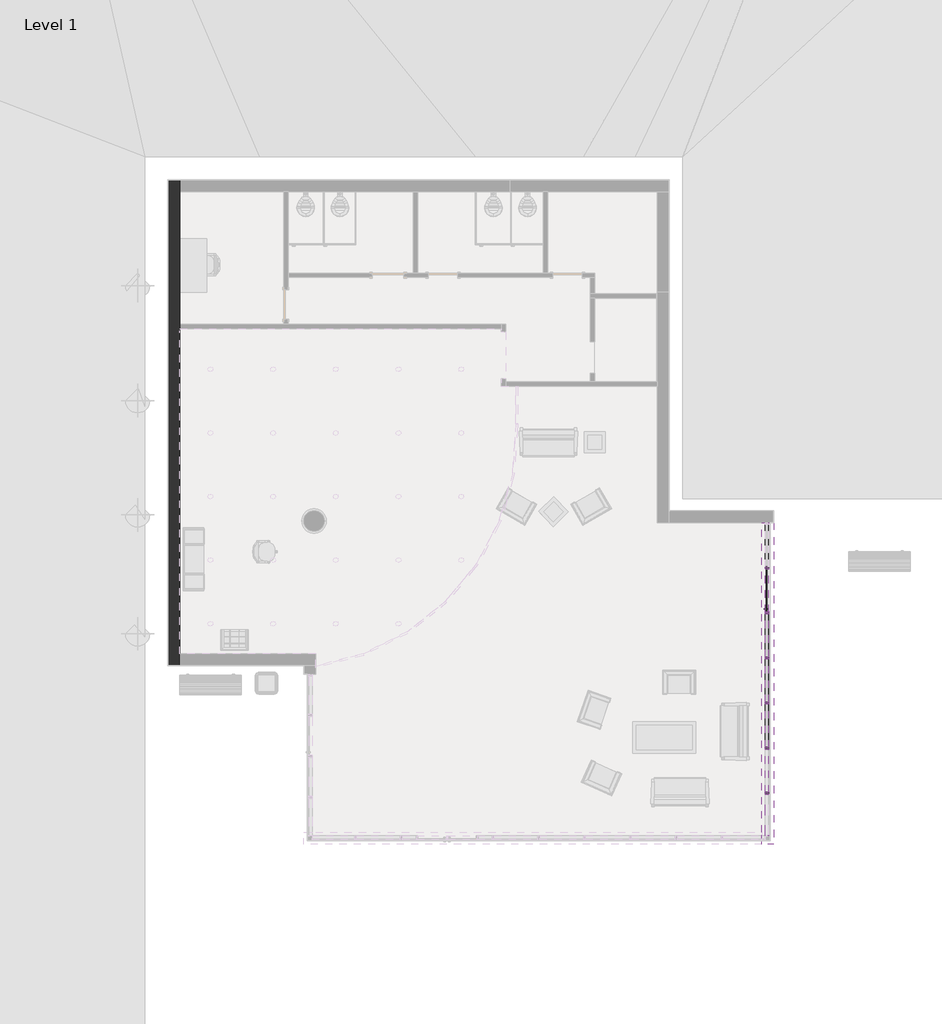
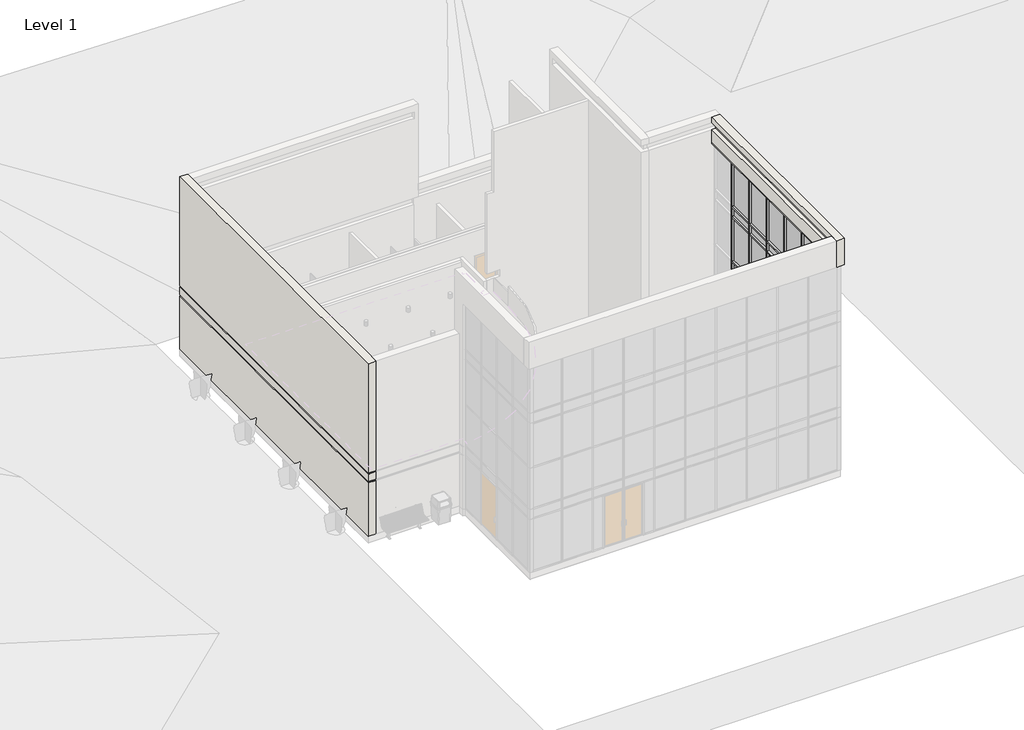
# One storey, part 4 of 6: 75 members, 28 plates, 2 walls, 1 door.
"""IFC4 building model written with IfcOpenShell, lengths in millimetres."""

from ifc_helpers import new_model, si_unit, origin, place, context, project, spatial, faceted_brep, transform, mapped, element, save
from components import curtain_wall_sgl_glass_curtain_wall_sgl_glass_6e947e4e, rectangular_mullion_50_x_150mm_a98d9a75, rectangular_mullion_50_x_150mm_e5e1dcca, rectangular_mullion_50_x_150mm_47c0eb49, rectangular_mullion_50_x_150mm_2677f012, rectangular_mullion_50_x_150mm_55a91b40, rectangular_mullion_50_x_150mm_fb94c6f7, rectangular_mullion_50_x_150mm_5de8f13b, rectangular_mullion_50_x_150mm_bd4d183d, rectangular_mullion_50_x_150mm_dd91e440, system_panel_glazed_1235180c, system_panel_glazed_c553e61d, system_panel_glazed_59e3bf6d, system_panel_glazed_48263e64, system_panel_glazed_91421042

model = new_model("IFC4")

# Units and contexts
model_context = context("Model", 3, world=origin())
ifc_project = project(units=[si_unit("LENGTHUNIT", "METRE", prefix="MILLI")], contexts=[model_context])

# Site, building, storey
site = spatial("IfcSite", under=ifc_project)
building = spatial("IfcBuilding", under=site)
storey = spatial("IfcBuildingStorey", under=building, Name="Level 1", Elevation=45720.0)

# Door
placement = place(None, origin())
curtain_wall_sgl_glass_curtain_wall_sgl_glass_shape = curtain_wall_sgl_glass_curtain_wall_sgl_glass_6e947e4e(model_context)
element("IfcDoor", 1, ObjectType="Curtain Wall Sgl Glass : Curtain Wall Sgl Glass", at=placement, inside=storey, context=model_context, shape_type="MappedRepresentation", body=[
    mapped(curtain_wall_sgl_glass_curtain_wall_sgl_glass_shape, transform((3237.9561928, -873.7818307, 45720.0), x_axis=(0.0, 1.0, 0.0), y_axis=(-1.0, 0.0, 0.0), z_axis=(0.0, 0.0, 1.0))),
])

# Members
rectangular_mullion_50_x_150mm_shape = rectangular_mullion_50_x_150mm_a98d9a75(model_context)
element("IfcMember", 2, ObjectType="Rectangular Mullion : 50 x 150mm", at=placement, inside=storey, context=model_context, shape_type="MappedRepresentation", body=[
    mapped(rectangular_mullion_50_x_150mm_shape, transform((3237.9561928, -6793.7818307, 45720.0), x_axis=(0.0, 1.0, 0.0), y_axis=(1.0, 0.0, 0.0), z_axis=(0.0, 0.0, -1.0))),
])
element("IfcMember", 3, ObjectType="Rectangular Mullion : 50 x 150mm", at=placement, inside=storey, context=model_context, shape_type="MappedRepresentation", body=[
    mapped(rectangular_mullion_50_x_150mm_shape, transform((3237.9561928, -5478.2262751, 45720.0), x_axis=(0.0, 1.0, 0.0), y_axis=(1.0, 0.0, 0.0), z_axis=(0.0, 0.0, -1.0))),
])
element("IfcMember", 4, ObjectType="Rectangular Mullion : 50 x 150mm", at=placement, inside=storey, context=model_context, shape_type="MappedRepresentation", body=[
    mapped(rectangular_mullion_50_x_150mm_shape, transform((3237.9561928, -4162.6707196, 45720.0), x_axis=(0.0, 1.0, 0.0), y_axis=(1.0, 0.0, 0.0), z_axis=(0.0, 0.0, -1.0))),
])
element("IfcMember", 5, ObjectType="Rectangular Mullion : 50 x 150mm", at=placement, inside=storey, context=model_context, shape_type="MappedRepresentation", body=[
    mapped(rectangular_mullion_50_x_150mm_shape, transform((3237.9561928, -2847.115164, 45720.0), x_axis=(0.0, 1.0, 0.0), y_axis=(1.0, 0.0, 0.0), z_axis=(0.0, 0.0, -1.0))),
])
element("IfcMember", 6, ObjectType="Rectangular Mullion : 50 x 150mm", at=placement, inside=storey, context=model_context, shape_type="MappedRepresentation", body=[
    mapped(rectangular_mullion_50_x_150mm_shape, transform((3237.9561928, -1531.5596084, 45720.0), x_axis=(0.0, 1.0, 0.0), y_axis=(1.0, 0.0, 0.0), z_axis=(0.0, 0.0, -1.0))),
])
element("IfcMember", 7, ObjectType="Rectangular Mullion : 50 x 150mm", at=placement, inside=storey, context=model_context, shape_type="MappedRepresentation", body=[
    mapped(rectangular_mullion_50_x_150mm_shape, transform((3237.9561928, -216.0040529, 45720.0), x_axis=(0.0, 1.0, 0.0), y_axis=(1.0, 0.0, 0.0), z_axis=(0.0, 0.0, -1.0))),
])
rectangular_mullion_50_x_150mm_2_shape = rectangular_mullion_50_x_150mm_e5e1dcca(model_context)
element("IfcMember", 8, ObjectType="Rectangular Mullion : 50 x 150mm", at=placement, inside=storey, context=model_context, shape_type="MappedRepresentation", body=[
    mapped(rectangular_mullion_50_x_150mm_2_shape, transform((3237.9561928, -6793.7818307, 48158.4), x_axis=(0.0, 1.0, 0.0), y_axis=(1.0, 0.0, 0.0), z_axis=(0.0, 0.0, -1.0))),
])
element("IfcMember", 9, ObjectType="Rectangular Mullion : 50 x 150mm", at=placement, inside=storey, context=model_context, shape_type="MappedRepresentation", body=[
    mapped(rectangular_mullion_50_x_150mm_2_shape, transform((3237.9561928, -5478.2262751, 48158.4), x_axis=(0.0, 1.0, 0.0), y_axis=(1.0, 0.0, 0.0), z_axis=(0.0, 0.0, -1.0))),
])
element("IfcMember", 10, ObjectType="Rectangular Mullion : 50 x 150mm", at=placement, inside=storey, context=model_context, shape_type="MappedRepresentation", body=[
    mapped(rectangular_mullion_50_x_150mm_2_shape, transform((3237.9561928, -4162.6707196, 48158.4), x_axis=(0.0, 1.0, 0.0), y_axis=(1.0, 0.0, 0.0), z_axis=(0.0, 0.0, -1.0))),
])
element("IfcMember", 11, ObjectType="Rectangular Mullion : 50 x 150mm", at=placement, inside=storey, context=model_context, shape_type="MappedRepresentation", body=[
    mapped(rectangular_mullion_50_x_150mm_2_shape, transform((3237.9561928, -2847.115164, 48158.4), x_axis=(0.0, 1.0, 0.0), y_axis=(1.0, 0.0, 0.0), z_axis=(0.0, 0.0, -1.0))),
])
element("IfcMember", 12, ObjectType="Rectangular Mullion : 50 x 150mm", at=placement, inside=storey, context=model_context, shape_type="MappedRepresentation", body=[
    mapped(rectangular_mullion_50_x_150mm_2_shape, transform((3237.9561928, -1531.5596084, 48158.4), x_axis=(0.0, 1.0, 0.0), y_axis=(1.0, 0.0, 0.0), z_axis=(0.0, 0.0, -1.0))),
])
element("IfcMember", 13, ObjectType="Rectangular Mullion : 50 x 150mm", at=placement, inside=storey, context=model_context, shape_type="MappedRepresentation", body=[
    mapped(rectangular_mullion_50_x_150mm_2_shape, transform((3237.9561928, -216.0040529, 48158.4), x_axis=(0.0, 1.0, 0.0), y_axis=(1.0, 0.0, 0.0), z_axis=(0.0, 0.0, -1.0))),
])
element("IfcMember", 14, ObjectType="Rectangular Mullion : 50 x 150mm", at=placement, inside=storey, context=model_context, shape_type="MappedRepresentation", body=[
    mapped(rectangular_mullion_50_x_150mm_2_shape, transform((3237.9561928, -6793.7818307, 52578.0), x_axis=(0.0, 1.0, 0.0), y_axis=(1.0, 0.0, 0.0), z_axis=(0.0, 0.0, -1.0))),
])
element("IfcMember", 15, ObjectType="Rectangular Mullion : 50 x 150mm", at=placement, inside=storey, context=model_context, shape_type="MappedRepresentation", body=[
    mapped(rectangular_mullion_50_x_150mm_2_shape, transform((3237.9561928, -5478.2262751, 52578.0), x_axis=(0.0, 1.0, 0.0), y_axis=(1.0, 0.0, 0.0), z_axis=(0.0, 0.0, -1.0))),
])
element("IfcMember", 16, ObjectType="Rectangular Mullion : 50 x 150mm", at=placement, inside=storey, context=model_context, shape_type="MappedRepresentation", body=[
    mapped(rectangular_mullion_50_x_150mm_2_shape, transform((3237.9561928, -4162.6707196, 52578.0), x_axis=(0.0, 1.0, 0.0), y_axis=(1.0, 0.0, 0.0), z_axis=(0.0, 0.0, -1.0))),
])
element("IfcMember", 17, ObjectType="Rectangular Mullion : 50 x 150mm", at=placement, inside=storey, context=model_context, shape_type="MappedRepresentation", body=[
    mapped(rectangular_mullion_50_x_150mm_2_shape, transform((3237.9561928, -2847.115164, 52578.0), x_axis=(0.0, 1.0, 0.0), y_axis=(1.0, 0.0, 0.0), z_axis=(0.0, 0.0, -1.0))),
])
element("IfcMember", 18, ObjectType="Rectangular Mullion : 50 x 150mm", at=placement, inside=storey, context=model_context, shape_type="MappedRepresentation", body=[
    mapped(rectangular_mullion_50_x_150mm_2_shape, transform((3237.9561928, -1531.5596084, 52578.0), x_axis=(0.0, 1.0, 0.0), y_axis=(1.0, 0.0, 0.0), z_axis=(0.0, 0.0, -1.0))),
])
element("IfcMember", 19, ObjectType="Rectangular Mullion : 50 x 150mm", at=placement, inside=storey, context=model_context, shape_type="MappedRepresentation", body=[
    mapped(rectangular_mullion_50_x_150mm_2_shape, transform((3237.9561928, -216.0040529, 52578.0), x_axis=(0.0, 1.0, 0.0), y_axis=(1.0, 0.0, 0.0), z_axis=(0.0, 0.0, -1.0))),
])
rectangular_mullion_50_x_150mm_3_shape = rectangular_mullion_50_x_150mm_47c0eb49(model_context)
element("IfcMember", 20, ObjectType="Rectangular Mullion : 50 x 150mm", at=placement, inside=storey, context=model_context, shape_type="MappedRepresentation", body=[
    mapped(rectangular_mullion_50_x_150mm_3_shape, transform((3237.9561928, -6793.7818307, 50520.0), x_axis=(0.0, 1.0, 0.0), y_axis=(1.0, 0.0, 0.0), z_axis=(0.0, 0.0, -1.0))),
])
element("IfcMember", 21, ObjectType="Rectangular Mullion : 50 x 150mm", at=placement, inside=storey, context=model_context, shape_type="MappedRepresentation", body=[
    mapped(rectangular_mullion_50_x_150mm_3_shape, transform((3237.9561928, -5478.2262751, 50520.0), x_axis=(0.0, 1.0, 0.0), y_axis=(1.0, 0.0, 0.0), z_axis=(0.0, 0.0, -1.0))),
])
element("IfcMember", 22, ObjectType="Rectangular Mullion : 50 x 150mm", at=placement, inside=storey, context=model_context, shape_type="MappedRepresentation", body=[
    mapped(rectangular_mullion_50_x_150mm_3_shape, transform((3237.9561928, -4162.6707196, 50520.0), x_axis=(0.0, 1.0, 0.0), y_axis=(1.0, 0.0, 0.0), z_axis=(0.0, 0.0, -1.0))),
])
element("IfcMember", 23, ObjectType="Rectangular Mullion : 50 x 150mm", at=placement, inside=storey, context=model_context, shape_type="MappedRepresentation", body=[
    mapped(rectangular_mullion_50_x_150mm_3_shape, transform((3237.9561928, -2847.115164, 50520.0), x_axis=(0.0, 1.0, 0.0), y_axis=(1.0, 0.0, 0.0), z_axis=(0.0, 0.0, -1.0))),
])
element("IfcMember", 24, ObjectType="Rectangular Mullion : 50 x 150mm", at=placement, inside=storey, context=model_context, shape_type="MappedRepresentation", body=[
    mapped(rectangular_mullion_50_x_150mm_3_shape, transform((3237.9561928, -1531.5596084, 50520.0), x_axis=(0.0, 1.0, 0.0), y_axis=(1.0, 0.0, 0.0), z_axis=(0.0, 0.0, -1.0))),
])
element("IfcMember", 25, ObjectType="Rectangular Mullion : 50 x 150mm", at=placement, inside=storey, context=model_context, shape_type="MappedRepresentation", body=[
    mapped(rectangular_mullion_50_x_150mm_3_shape, transform((3237.9561928, -216.0040529, 50520.0), x_axis=(0.0, 1.0, 0.0), y_axis=(1.0, 0.0, 0.0), z_axis=(0.0, 0.0, -1.0))),
])
rectangular_mullion_50_x_150mm_4_shape = rectangular_mullion_50_x_150mm_2677f012(model_context)
element("IfcMember", 26, ObjectType="Rectangular Mullion : 50 x 150mm", at=placement, inside=storey, context=model_context, shape_type="MappedRepresentation", body=[
    mapped(rectangular_mullion_50_x_150mm_4_shape, transform((3237.9561928, -6793.7818307, 53035.2), x_axis=(0.0, 1.0, 0.0), y_axis=(1.0, 0.0, 0.0), z_axis=(0.0, 0.0, -1.0))),
])
element("IfcMember", 27, ObjectType="Rectangular Mullion : 50 x 150mm", at=placement, inside=storey, context=model_context, shape_type="MappedRepresentation", body=[
    mapped(rectangular_mullion_50_x_150mm_4_shape, transform((3237.9561928, -5478.2262751, 53035.2), x_axis=(0.0, 1.0, 0.0), y_axis=(1.0, 0.0, 0.0), z_axis=(0.0, 0.0, -1.0))),
])
element("IfcMember", 28, ObjectType="Rectangular Mullion : 50 x 150mm", at=placement, inside=storey, context=model_context, shape_type="MappedRepresentation", body=[
    mapped(rectangular_mullion_50_x_150mm_4_shape, transform((3237.9561928, -4162.6707196, 53035.2), x_axis=(0.0, 1.0, 0.0), y_axis=(1.0, 0.0, 0.0), z_axis=(0.0, 0.0, -1.0))),
])
element("IfcMember", 29, ObjectType="Rectangular Mullion : 50 x 150mm", at=placement, inside=storey, context=model_context, shape_type="MappedRepresentation", body=[
    mapped(rectangular_mullion_50_x_150mm_4_shape, transform((3237.9561928, -2847.115164, 53035.2), x_axis=(0.0, 1.0, 0.0), y_axis=(1.0, 0.0, 0.0), z_axis=(0.0, 0.0, -1.0))),
])
element("IfcMember", 30, ObjectType="Rectangular Mullion : 50 x 150mm", at=placement, inside=storey, context=model_context, shape_type="MappedRepresentation", body=[
    mapped(rectangular_mullion_50_x_150mm_4_shape, transform((3237.9561928, -1531.5596084, 53035.2), x_axis=(0.0, 1.0, 0.0), y_axis=(1.0, 0.0, 0.0), z_axis=(0.0, 0.0, -1.0))),
])
element("IfcMember", 31, ObjectType="Rectangular Mullion : 50 x 150mm", at=placement, inside=storey, context=model_context, shape_type="MappedRepresentation", body=[
    mapped(rectangular_mullion_50_x_150mm_4_shape, transform((3237.9561928, -216.0040529, 53035.2), x_axis=(0.0, 1.0, 0.0), y_axis=(1.0, 0.0, 0.0), z_axis=(0.0, 0.0, -1.0))),
])
rectangular_mullion_50_x_150mm_5_shape = rectangular_mullion_50_x_150mm_55a91b40(model_context)
element("IfcMember", 32, ObjectType="Rectangular Mullion : 50 x 150mm", at=placement, inside=storey, context=model_context, shape_type="MappedRepresentation", body=[
    mapped(rectangular_mullion_50_x_150mm_5_shape, transform((3237.9561928, -6793.7818307, 48615.6), x_axis=(0.0, 1.0, 0.0), y_axis=(1.0, 0.0, 0.0), z_axis=(0.0, 0.0, -1.0))),
])
element("IfcMember", 33, ObjectType="Rectangular Mullion : 50 x 150mm", at=placement, inside=storey, context=model_context, shape_type="MappedRepresentation", body=[
    mapped(rectangular_mullion_50_x_150mm_5_shape, transform((3237.9561928, -5478.2262751, 48615.6), x_axis=(0.0, 1.0, 0.0), y_axis=(1.0, 0.0, 0.0), z_axis=(0.0, 0.0, -1.0))),
])
element("IfcMember", 34, ObjectType="Rectangular Mullion : 50 x 150mm", at=placement, inside=storey, context=model_context, shape_type="MappedRepresentation", body=[
    mapped(rectangular_mullion_50_x_150mm_5_shape, transform((3237.9561928, -4162.6707196, 48615.6), x_axis=(0.0, 1.0, 0.0), y_axis=(1.0, 0.0, 0.0), z_axis=(0.0, 0.0, -1.0))),
])
element("IfcMember", 35, ObjectType="Rectangular Mullion : 50 x 150mm", at=placement, inside=storey, context=model_context, shape_type="MappedRepresentation", body=[
    mapped(rectangular_mullion_50_x_150mm_5_shape, transform((3237.9561928, -2847.115164, 48615.6), x_axis=(0.0, 1.0, 0.0), y_axis=(1.0, 0.0, 0.0), z_axis=(0.0, 0.0, -1.0))),
])
element("IfcMember", 36, ObjectType="Rectangular Mullion : 50 x 150mm", at=placement, inside=storey, context=model_context, shape_type="MappedRepresentation", body=[
    mapped(rectangular_mullion_50_x_150mm_5_shape, transform((3237.9561928, -1531.5596084, 48615.6), x_axis=(0.0, 1.0, 0.0), y_axis=(1.0, 0.0, 0.0), z_axis=(0.0, 0.0, -1.0))),
])
element("IfcMember", 37, ObjectType="Rectangular Mullion : 50 x 150mm", at=placement, inside=storey, context=model_context, shape_type="MappedRepresentation", body=[
    mapped(rectangular_mullion_50_x_150mm_5_shape, transform((3237.9561928, -216.0040529, 48615.6), x_axis=(0.0, 1.0, 0.0), y_axis=(1.0, 0.0, 0.0), z_axis=(0.0, 0.0, -1.0))),
])
rectangular_mullion_50_x_150mm_6_shape = rectangular_mullion_50_x_150mm_fb94c6f7(model_context)
element("IfcMember", 38, ObjectType="Rectangular Mullion : 50 x 150mm", at=placement, inside=storey, context=model_context, shape_type="MappedRepresentation", body=[
    mapped(rectangular_mullion_50_x_150mm_6_shape, transform((3237.9561928, -5503.2262751, 55168.8), x_axis=(0.0, 0.0, 1.0), y_axis=(1.0, 0.0, 0.0), z_axis=(0.0, 1.0, 0.0))),
])
element("IfcMember", 39, ObjectType="Rectangular Mullion : 50 x 150mm", at=placement, inside=storey, context=model_context, shape_type="MappedRepresentation", body=[
    mapped(rectangular_mullion_50_x_150mm_6_shape, transform((3237.9561928, -4187.6707196, 55168.8), x_axis=(0.0, 0.0, 1.0), y_axis=(1.0, 0.0, 0.0), z_axis=(0.0, 1.0, 0.0))),
])
element("IfcMember", 40, ObjectType="Rectangular Mullion : 50 x 150mm", at=placement, inside=storey, context=model_context, shape_type="MappedRepresentation", body=[
    mapped(rectangular_mullion_50_x_150mm_6_shape, transform((3237.9561928, -2872.115164, 55168.8), x_axis=(0.0, 0.0, 1.0), y_axis=(1.0, 0.0, 0.0), z_axis=(0.0, 1.0, 0.0))),
])
element("IfcMember", 41, ObjectType="Rectangular Mullion : 50 x 150mm", at=placement, inside=storey, context=model_context, shape_type="MappedRepresentation", body=[
    mapped(rectangular_mullion_50_x_150mm_6_shape, transform((3237.9561928, -1556.5596084, 55168.8), x_axis=(0.0, 0.0, 1.0), y_axis=(1.0, 0.0, 0.0), z_axis=(0.0, 1.0, 0.0))),
])
element("IfcMember", 42, ObjectType="Rectangular Mullion : 50 x 150mm", at=placement, inside=storey, context=model_context, shape_type="MappedRepresentation", body=[
    mapped(rectangular_mullion_50_x_150mm_6_shape, transform((3237.9561928, -241.0040529, 55168.8), x_axis=(0.0, 0.0, 1.0), y_axis=(1.0, 0.0, 0.0), z_axis=(0.0, 1.0, 0.0))),
])
element("IfcMember", 43, ObjectType="Rectangular Mullion : 50 x 150mm", at=placement, inside=storey, context=model_context, shape_type="MappedRepresentation", body=[
    mapped(rectangular_mullion_50_x_150mm_6_shape, transform((3237.9561928, -5453.2262751, 45720.0), x_axis=(0.0, 0.0, -1.0), y_axis=(1.0, 0.0, 0.0), z_axis=(0.0, -1.0, 0.0))),
])
element("IfcMember", 44, ObjectType="Rectangular Mullion : 50 x 150mm", at=placement, inside=storey, context=model_context, shape_type="MappedRepresentation", body=[
    mapped(rectangular_mullion_50_x_150mm_6_shape, transform((3237.9561928, -4137.6707196, 45720.0), x_axis=(0.0, 0.0, -1.0), y_axis=(1.0, 0.0, 0.0), z_axis=(0.0, -1.0, 0.0))),
])
element("IfcMember", 45, ObjectType="Rectangular Mullion : 50 x 150mm", at=placement, inside=storey, context=model_context, shape_type="MappedRepresentation", body=[
    mapped(rectangular_mullion_50_x_150mm_6_shape, transform((3237.9561928, -2822.115164, 45720.0), x_axis=(0.0, 0.0, -1.0), y_axis=(1.0, 0.0, 0.0), z_axis=(0.0, -1.0, 0.0))),
])
rectangular_mullion_50_x_150mm_7_shape = rectangular_mullion_50_x_150mm_5de8f13b(model_context)
element("IfcMember", 46, ObjectType="Rectangular Mullion : 50 x 150mm", at=placement, inside=storey, context=model_context, shape_type="MappedRepresentation", body=[
    mapped(rectangular_mullion_50_x_150mm_7_shape, transform((3237.9561928, -5503.2262751, 48158.4), x_axis=(0.0, 0.0, 1.0), y_axis=(1.0, 0.0, 0.0), z_axis=(0.0, 1.0, 0.0))),
])
element("IfcMember", 47, ObjectType="Rectangular Mullion : 50 x 150mm", at=placement, inside=storey, context=model_context, shape_type="MappedRepresentation", body=[
    mapped(rectangular_mullion_50_x_150mm_7_shape, transform((3237.9561928, -4187.6707196, 48158.4), x_axis=(0.0, 0.0, 1.0), y_axis=(1.0, 0.0, 0.0), z_axis=(0.0, 1.0, 0.0))),
])
element("IfcMember", 48, ObjectType="Rectangular Mullion : 50 x 150mm", at=placement, inside=storey, context=model_context, shape_type="MappedRepresentation", body=[
    mapped(rectangular_mullion_50_x_150mm_7_shape, transform((3237.9561928, -2872.115164, 48158.4), x_axis=(0.0, 0.0, 1.0), y_axis=(1.0, 0.0, 0.0), z_axis=(0.0, 1.0, 0.0))),
])
element("IfcMember", 49, ObjectType="Rectangular Mullion : 50 x 150mm", at=placement, inside=storey, context=model_context, shape_type="MappedRepresentation", body=[
    mapped(rectangular_mullion_50_x_150mm_7_shape, transform((3237.9561928, -1556.5596084, 48158.4), x_axis=(0.0, 0.0, 1.0), y_axis=(1.0, 0.0, 0.0), z_axis=(0.0, 1.0, 0.0))),
])
element("IfcMember", 50, ObjectType="Rectangular Mullion : 50 x 150mm", at=placement, inside=storey, context=model_context, shape_type="MappedRepresentation", body=[
    mapped(rectangular_mullion_50_x_150mm_7_shape, transform((3237.9561928, -241.0040529, 48158.4), x_axis=(0.0, 0.0, 1.0), y_axis=(1.0, 0.0, 0.0), z_axis=(0.0, 1.0, 0.0))),
])
element("IfcMember", 51, ObjectType="Rectangular Mullion : 50 x 150mm", at=placement, inside=storey, context=model_context, shape_type="MappedRepresentation", body=[
    mapped(rectangular_mullion_50_x_150mm_7_shape, transform((3237.9561928, -5503.2262751, 50520.0), x_axis=(0.0, 0.0, 1.0), y_axis=(1.0, 0.0, 0.0), z_axis=(0.0, 1.0, 0.0))),
])
element("IfcMember", 52, ObjectType="Rectangular Mullion : 50 x 150mm", at=placement, inside=storey, context=model_context, shape_type="MappedRepresentation", body=[
    mapped(rectangular_mullion_50_x_150mm_7_shape, transform((3237.9561928, -4187.6707196, 50520.0), x_axis=(0.0, 0.0, 1.0), y_axis=(1.0, 0.0, 0.0), z_axis=(0.0, 1.0, 0.0))),
])
element("IfcMember", 53, ObjectType="Rectangular Mullion : 50 x 150mm", at=placement, inside=storey, context=model_context, shape_type="MappedRepresentation", body=[
    mapped(rectangular_mullion_50_x_150mm_7_shape, transform((3237.9561928, -2872.115164, 50520.0), x_axis=(0.0, 0.0, 1.0), y_axis=(1.0, 0.0, 0.0), z_axis=(0.0, 1.0, 0.0))),
])
element("IfcMember", 54, ObjectType="Rectangular Mullion : 50 x 150mm", at=placement, inside=storey, context=model_context, shape_type="MappedRepresentation", body=[
    mapped(rectangular_mullion_50_x_150mm_7_shape, transform((3237.9561928, -1556.5596084, 50520.0), x_axis=(0.0, 0.0, 1.0), y_axis=(1.0, 0.0, 0.0), z_axis=(0.0, 1.0, 0.0))),
])
element("IfcMember", 55, ObjectType="Rectangular Mullion : 50 x 150mm", at=placement, inside=storey, context=model_context, shape_type="MappedRepresentation", body=[
    mapped(rectangular_mullion_50_x_150mm_7_shape, transform((3237.9561928, -241.0040529, 50520.0), x_axis=(0.0, 0.0, 1.0), y_axis=(1.0, 0.0, 0.0), z_axis=(0.0, 1.0, 0.0))),
])
element("IfcMember", 56, ObjectType="Rectangular Mullion : 50 x 150mm", at=placement, inside=storey, context=model_context, shape_type="MappedRepresentation", body=[
    mapped(rectangular_mullion_50_x_150mm_7_shape, transform((3237.9561928, -5503.2262751, 53035.2), x_axis=(0.0, 0.0, 1.0), y_axis=(1.0, 0.0, 0.0), z_axis=(0.0, 1.0, 0.0))),
])
element("IfcMember", 57, ObjectType="Rectangular Mullion : 50 x 150mm", at=placement, inside=storey, context=model_context, shape_type="MappedRepresentation", body=[
    mapped(rectangular_mullion_50_x_150mm_7_shape, transform((3237.9561928, -4187.6707196, 53035.2), x_axis=(0.0, 0.0, 1.0), y_axis=(1.0, 0.0, 0.0), z_axis=(0.0, 1.0, 0.0))),
])
element("IfcMember", 58, ObjectType="Rectangular Mullion : 50 x 150mm", at=placement, inside=storey, context=model_context, shape_type="MappedRepresentation", body=[
    mapped(rectangular_mullion_50_x_150mm_7_shape, transform((3237.9561928, -2872.115164, 53035.2), x_axis=(0.0, 0.0, 1.0), y_axis=(1.0, 0.0, 0.0), z_axis=(0.0, 1.0, 0.0))),
])
element("IfcMember", 59, ObjectType="Rectangular Mullion : 50 x 150mm", at=placement, inside=storey, context=model_context, shape_type="MappedRepresentation", body=[
    mapped(rectangular_mullion_50_x_150mm_7_shape, transform((3237.9561928, -1556.5596084, 53035.2), x_axis=(0.0, 0.0, 1.0), y_axis=(1.0, 0.0, 0.0), z_axis=(0.0, 1.0, 0.0))),
])
element("IfcMember", 60, ObjectType="Rectangular Mullion : 50 x 150mm", at=placement, inside=storey, context=model_context, shape_type="MappedRepresentation", body=[
    mapped(rectangular_mullion_50_x_150mm_7_shape, transform((3237.9561928, -241.0040529, 53035.2), x_axis=(0.0, 0.0, 1.0), y_axis=(1.0, 0.0, 0.0), z_axis=(0.0, 1.0, 0.0))),
])
element("IfcMember", 61, ObjectType="Rectangular Mullion : 50 x 150mm", at=placement, inside=storey, context=model_context, shape_type="MappedRepresentation", body=[
    mapped(rectangular_mullion_50_x_150mm_7_shape, transform((3237.9561928, -5503.2262751, 52578.0), x_axis=(0.0, 0.0, 1.0), y_axis=(1.0, 0.0, 0.0), z_axis=(0.0, 1.0, 0.0))),
])
element("IfcMember", 62, ObjectType="Rectangular Mullion : 50 x 150mm", at=placement, inside=storey, context=model_context, shape_type="MappedRepresentation", body=[
    mapped(rectangular_mullion_50_x_150mm_7_shape, transform((3237.9561928, -4187.6707196, 52578.0), x_axis=(0.0, 0.0, 1.0), y_axis=(1.0, 0.0, 0.0), z_axis=(0.0, 1.0, 0.0))),
])
element("IfcMember", 63, ObjectType="Rectangular Mullion : 50 x 150mm", at=placement, inside=storey, context=model_context, shape_type="MappedRepresentation", body=[
    mapped(rectangular_mullion_50_x_150mm_7_shape, transform((3237.9561928, -2872.115164, 52578.0), x_axis=(0.0, 0.0, 1.0), y_axis=(1.0, 0.0, 0.0), z_axis=(0.0, 1.0, 0.0))),
])
element("IfcMember", 64, ObjectType="Rectangular Mullion : 50 x 150mm", at=placement, inside=storey, context=model_context, shape_type="MappedRepresentation", body=[
    mapped(rectangular_mullion_50_x_150mm_7_shape, transform((3237.9561928, -1556.5596084, 52578.0), x_axis=(0.0, 0.0, 1.0), y_axis=(1.0, 0.0, 0.0), z_axis=(0.0, 1.0, 0.0))),
])
element("IfcMember", 65, ObjectType="Rectangular Mullion : 50 x 150mm", at=placement, inside=storey, context=model_context, shape_type="MappedRepresentation", body=[
    mapped(rectangular_mullion_50_x_150mm_7_shape, transform((3237.9561928, -241.0040529, 52578.0), x_axis=(0.0, 0.0, 1.0), y_axis=(1.0, 0.0, 0.0), z_axis=(0.0, 1.0, 0.0))),
])
element("IfcMember", 66, ObjectType="Rectangular Mullion : 50 x 150mm", at=placement, inside=storey, context=model_context, shape_type="MappedRepresentation", body=[
    mapped(rectangular_mullion_50_x_150mm_7_shape, transform((3237.9561928, -5503.2262751, 48615.6), x_axis=(0.0, 0.0, 1.0), y_axis=(1.0, 0.0, 0.0), z_axis=(0.0, 1.0, 0.0))),
])
element("IfcMember", 67, ObjectType="Rectangular Mullion : 50 x 150mm", at=placement, inside=storey, context=model_context, shape_type="MappedRepresentation", body=[
    mapped(rectangular_mullion_50_x_150mm_7_shape, transform((3237.9561928, -4187.6707196, 48615.6), x_axis=(0.0, 0.0, 1.0), y_axis=(1.0, 0.0, 0.0), z_axis=(0.0, 1.0, 0.0))),
])
element("IfcMember", 68, ObjectType="Rectangular Mullion : 50 x 150mm", at=placement, inside=storey, context=model_context, shape_type="MappedRepresentation", body=[
    mapped(rectangular_mullion_50_x_150mm_7_shape, transform((3237.9561928, -2872.115164, 48615.6), x_axis=(0.0, 0.0, 1.0), y_axis=(1.0, 0.0, 0.0), z_axis=(0.0, 1.0, 0.0))),
])
element("IfcMember", 69, ObjectType="Rectangular Mullion : 50 x 150mm", at=placement, inside=storey, context=model_context, shape_type="MappedRepresentation", body=[
    mapped(rectangular_mullion_50_x_150mm_7_shape, transform((3237.9561928, -1556.5596084, 48615.6), x_axis=(0.0, 0.0, 1.0), y_axis=(1.0, 0.0, 0.0), z_axis=(0.0, 1.0, 0.0))),
])
element("IfcMember", 70, ObjectType="Rectangular Mullion : 50 x 150mm", at=placement, inside=storey, context=model_context, shape_type="MappedRepresentation", body=[
    mapped(rectangular_mullion_50_x_150mm_7_shape, transform((3237.9561928, -241.0040529, 48615.6), x_axis=(0.0, 0.0, 1.0), y_axis=(1.0, 0.0, 0.0), z_axis=(0.0, 1.0, 0.0))),
])
rectangular_mullion_50_x_150mm_8_shape = rectangular_mullion_50_x_150mm_bd4d183d(model_context)
element("IfcMember", 71, ObjectType="Rectangular Mullion : 50 x 150mm", at=placement, inside=storey, context=model_context, shape_type="MappedRepresentation", body=[
    mapped(rectangular_mullion_50_x_150mm_8_shape, transform((3237.9561928, -191.0040529, 45720.0), x_axis=(0.0, 0.0, -1.0), y_axis=(1.0, 0.0, 0.0), z_axis=(0.0, -1.0, 0.0))),
])
rectangular_mullion_50_x_150mm_9_shape = rectangular_mullion_50_x_150mm_dd91e440(model_context)
element("IfcMember", 72, ObjectType="Rectangular Mullion : 50 x 150mm", at=placement, inside=storey, context=model_context, shape_type="MappedRepresentation", body=[
    mapped(rectangular_mullion_50_x_150mm_9_shape, transform((3237.9561928, -6818.7818307, 48158.4), x_axis=(0.0, 0.0, 1.0), y_axis=(1.0, 0.0, 0.0), z_axis=(0.0, 1.0, 0.0))),
])
element("IfcMember", 73, ObjectType="Rectangular Mullion : 50 x 150mm", at=placement, inside=storey, context=model_context, shape_type="MappedRepresentation", body=[
    mapped(rectangular_mullion_50_x_150mm_9_shape, transform((3237.9561928, -6818.7818307, 50520.0), x_axis=(0.0, 0.0, 1.0), y_axis=(1.0, 0.0, 0.0), z_axis=(0.0, 1.0, 0.0))),
])
element("IfcMember", 74, ObjectType="Rectangular Mullion : 50 x 150mm", at=placement, inside=storey, context=model_context, shape_type="MappedRepresentation", body=[
    mapped(rectangular_mullion_50_x_150mm_9_shape, transform((3237.9561928, -6818.7818307, 53035.2), x_axis=(0.0, 0.0, 1.0), y_axis=(1.0, 0.0, 0.0), z_axis=(0.0, 1.0, 0.0))),
])
element("IfcMember", 75, ObjectType="Rectangular Mullion : 50 x 150mm", at=placement, inside=storey, context=model_context, shape_type="MappedRepresentation", body=[
    mapped(rectangular_mullion_50_x_150mm_9_shape, transform((3237.9561928, -6818.7818307, 52578.0), x_axis=(0.0, 0.0, 1.0), y_axis=(1.0, 0.0, 0.0), z_axis=(0.0, 1.0, 0.0))),
])
element("IfcMember", 76, ObjectType="Rectangular Mullion : 50 x 150mm", at=placement, inside=storey, context=model_context, shape_type="MappedRepresentation", body=[
    mapped(rectangular_mullion_50_x_150mm_9_shape, transform((3237.9561928, -6818.7818307, 48615.6), x_axis=(0.0, 0.0, 1.0), y_axis=(1.0, 0.0, 0.0), z_axis=(0.0, 1.0, 0.0))),
])

# Plates
system_panel_glazed_shape = system_panel_glazed_1235180c(model_context)
element("IfcPlate", 77, ObjectType="System Panel : Glazed", at=placement, inside=storey, context=model_context, shape_type="MappedRepresentation", body=[
    mapped(system_panel_glazed_shape, transform((3237.9561928, -4820.4484973, 45770.0), x_axis=(0.0, 1.0, 0.0), y_axis=(-1.0, 0.0, 0.0), z_axis=(0.0, 0.0, 1.0))),
])
element("IfcPlate", 78, ObjectType="System Panel : Glazed", at=placement, inside=storey, context=model_context, shape_type="MappedRepresentation", body=[
    mapped(system_panel_glazed_shape, transform((3237.9561928, -3504.8929418, 45770.0), x_axis=(0.0, 1.0, 0.0), y_axis=(-1.0, 0.0, 0.0), z_axis=(0.0, 0.0, 1.0))),
])
element("IfcPlate", 79, ObjectType="System Panel : Glazed", at=placement, inside=storey, context=model_context, shape_type="MappedRepresentation", body=[
    mapped(system_panel_glazed_shape, transform((3237.9561928, -2189.3373862, 45770.0), x_axis=(0.0, 1.0, 0.0), y_axis=(-1.0, 0.0, 0.0), z_axis=(0.0, 0.0, 1.0))),
])
system_panel_glazed_2_shape = system_panel_glazed_c553e61d(model_context)
element("IfcPlate", 80, ObjectType="System Panel : Glazed", at=placement, inside=storey, context=model_context, shape_type="MappedRepresentation", body=[
    mapped(system_panel_glazed_2_shape, transform((3237.9561928, -6136.0040529, 48183.4), x_axis=(0.0, 1.0, 0.0), y_axis=(-1.0, 0.0, 0.0), z_axis=(0.0, 0.0, 1.0))),
])
element("IfcPlate", 81, ObjectType="System Panel : Glazed", at=placement, inside=storey, context=model_context, shape_type="MappedRepresentation", body=[
    mapped(system_panel_glazed_2_shape, transform((3237.9561928, -4820.4484973, 48183.4), x_axis=(0.0, 1.0, 0.0), y_axis=(-1.0, 0.0, 0.0), z_axis=(0.0, 0.0, 1.0))),
])
element("IfcPlate", 82, ObjectType="System Panel : Glazed", at=placement, inside=storey, context=model_context, shape_type="MappedRepresentation", body=[
    mapped(system_panel_glazed_2_shape, transform((3237.9561928, -3504.8929418, 48183.4), x_axis=(0.0, 1.0, 0.0), y_axis=(-1.0, 0.0, 0.0), z_axis=(0.0, 0.0, 1.0))),
])
element("IfcPlate", 83, ObjectType="System Panel : Glazed", at=placement, inside=storey, context=model_context, shape_type="MappedRepresentation", body=[
    mapped(system_panel_glazed_2_shape, transform((3237.9561928, -2189.3373862, 48183.4), x_axis=(0.0, 1.0, 0.0), y_axis=(-1.0, 0.0, 0.0), z_axis=(0.0, 0.0, 1.0))),
])
element("IfcPlate", 84, ObjectType="System Panel : Glazed", at=placement, inside=storey, context=model_context, shape_type="MappedRepresentation", body=[
    mapped(system_panel_glazed_2_shape, transform((3237.9561928, -873.7818307, 48183.4), x_axis=(0.0, 1.0, 0.0), y_axis=(-1.0, 0.0, 0.0), z_axis=(0.0, 0.0, 1.0))),
])
element("IfcPlate", 85, ObjectType="System Panel : Glazed", at=placement, inside=storey, context=model_context, shape_type="MappedRepresentation", body=[
    mapped(system_panel_glazed_2_shape, transform((3237.9561928, -6136.0040529, 52603.0), x_axis=(0.0, 1.0, 0.0), y_axis=(-1.0, 0.0, 0.0), z_axis=(0.0, 0.0, 1.0))),
])
element("IfcPlate", 86, ObjectType="System Panel : Glazed", at=placement, inside=storey, context=model_context, shape_type="MappedRepresentation", body=[
    mapped(system_panel_glazed_2_shape, transform((3237.9561928, -4820.4484973, 52603.0), x_axis=(0.0, 1.0, 0.0), y_axis=(-1.0, 0.0, 0.0), z_axis=(0.0, 0.0, 1.0))),
])
element("IfcPlate", 87, ObjectType="System Panel : Glazed", at=placement, inside=storey, context=model_context, shape_type="MappedRepresentation", body=[
    mapped(system_panel_glazed_2_shape, transform((3237.9561928, -3504.8929418, 52603.0), x_axis=(0.0, 1.0, 0.0), y_axis=(-1.0, 0.0, 0.0), z_axis=(0.0, 0.0, 1.0))),
])
element("IfcPlate", 88, ObjectType="System Panel : Glazed", at=placement, inside=storey, context=model_context, shape_type="MappedRepresentation", body=[
    mapped(system_panel_glazed_2_shape, transform((3237.9561928, -2189.3373862, 52603.0), x_axis=(0.0, 1.0, 0.0), y_axis=(-1.0, 0.0, 0.0), z_axis=(0.0, 0.0, 1.0))),
])
element("IfcPlate", 89, ObjectType="System Panel : Glazed", at=placement, inside=storey, context=model_context, shape_type="MappedRepresentation", body=[
    mapped(system_panel_glazed_2_shape, transform((3237.9561928, -873.7818307, 52603.0), x_axis=(0.0, 1.0, 0.0), y_axis=(-1.0, 0.0, 0.0), z_axis=(0.0, 0.0, 1.0))),
])
system_panel_glazed_3_shape = system_panel_glazed_59e3bf6d(model_context)
element("IfcPlate", 90, ObjectType="System Panel : Glazed", at=placement, inside=storey, context=model_context, shape_type="MappedRepresentation", body=[
    mapped(system_panel_glazed_3_shape, transform((3237.9561928, -6136.0040529, 50545.0), x_axis=(0.0, 1.0, 0.0), y_axis=(-1.0, 0.0, 0.0), z_axis=(0.0, 0.0, 1.0))),
])
element("IfcPlate", 91, ObjectType="System Panel : Glazed", at=placement, inside=storey, context=model_context, shape_type="MappedRepresentation", body=[
    mapped(system_panel_glazed_3_shape, transform((3237.9561928, -4820.4484973, 50545.0), x_axis=(0.0, 1.0, 0.0), y_axis=(-1.0, 0.0, 0.0), z_axis=(0.0, 0.0, 1.0))),
])
element("IfcPlate", 92, ObjectType="System Panel : Glazed", at=placement, inside=storey, context=model_context, shape_type="MappedRepresentation", body=[
    mapped(system_panel_glazed_3_shape, transform((3237.9561928, -3504.8929418, 50545.0), x_axis=(0.0, 1.0, 0.0), y_axis=(-1.0, 0.0, 0.0), z_axis=(0.0, 0.0, 1.0))),
])
element("IfcPlate", 93, ObjectType="System Panel : Glazed", at=placement, inside=storey, context=model_context, shape_type="MappedRepresentation", body=[
    mapped(system_panel_glazed_3_shape, transform((3237.9561928, -2189.3373862, 50545.0), x_axis=(0.0, 1.0, 0.0), y_axis=(-1.0, 0.0, 0.0), z_axis=(0.0, 0.0, 1.0))),
])
element("IfcPlate", 94, ObjectType="System Panel : Glazed", at=placement, inside=storey, context=model_context, shape_type="MappedRepresentation", body=[
    mapped(system_panel_glazed_3_shape, transform((3237.9561928, -873.7818307, 50545.0), x_axis=(0.0, 1.0, 0.0), y_axis=(-1.0, 0.0, 0.0), z_axis=(0.0, 0.0, 1.0))),
])
system_panel_glazed_4_shape = system_panel_glazed_48263e64(model_context)
element("IfcPlate", 95, ObjectType="System Panel : Glazed", at=placement, inside=storey, context=model_context, shape_type="MappedRepresentation", body=[
    mapped(system_panel_glazed_4_shape, transform((3237.9561928, -6136.0040529, 53060.2), x_axis=(0.0, 1.0, 0.0), y_axis=(-1.0, 0.0, 0.0), z_axis=(0.0, 0.0, 1.0))),
])
element("IfcPlate", 96, ObjectType="System Panel : Glazed", at=placement, inside=storey, context=model_context, shape_type="MappedRepresentation", body=[
    mapped(system_panel_glazed_4_shape, transform((3237.9561928, -4820.4484973, 53060.2), x_axis=(0.0, 1.0, 0.0), y_axis=(-1.0, 0.0, 0.0), z_axis=(0.0, 0.0, 1.0))),
])
element("IfcPlate", 97, ObjectType="System Panel : Glazed", at=placement, inside=storey, context=model_context, shape_type="MappedRepresentation", body=[
    mapped(system_panel_glazed_4_shape, transform((3237.9561928, -3504.8929418, 53060.2), x_axis=(0.0, 1.0, 0.0), y_axis=(-1.0, 0.0, 0.0), z_axis=(0.0, 0.0, 1.0))),
])
element("IfcPlate", 98, ObjectType="System Panel : Glazed", at=placement, inside=storey, context=model_context, shape_type="MappedRepresentation", body=[
    mapped(system_panel_glazed_4_shape, transform((3237.9561928, -2189.3373862, 53060.2), x_axis=(0.0, 1.0, 0.0), y_axis=(-1.0, 0.0, 0.0), z_axis=(0.0, 0.0, 1.0))),
])
element("IfcPlate", 99, ObjectType="System Panel : Glazed", at=placement, inside=storey, context=model_context, shape_type="MappedRepresentation", body=[
    mapped(system_panel_glazed_4_shape, transform((3237.9561928, -873.7818307, 53060.2), x_axis=(0.0, 1.0, 0.0), y_axis=(-1.0, 0.0, 0.0), z_axis=(0.0, 0.0, 1.0))),
])
system_panel_glazed_5_shape = system_panel_glazed_91421042(model_context)
element("IfcPlate", 100, ObjectType="System Panel : Glazed", at=placement, inside=storey, context=model_context, shape_type="MappedRepresentation", body=[
    mapped(system_panel_glazed_5_shape, transform((3237.9561928, -6136.0040529, 48640.6), x_axis=(0.0, 1.0, 0.0), y_axis=(-1.0, 0.0, 0.0), z_axis=(0.0, 0.0, 1.0))),
])
element("IfcPlate", 101, ObjectType="System Panel : Glazed", at=placement, inside=storey, context=model_context, shape_type="MappedRepresentation", body=[
    mapped(system_panel_glazed_5_shape, transform((3237.9561928, -4820.4484973, 48640.6), x_axis=(0.0, 1.0, 0.0), y_axis=(-1.0, 0.0, 0.0), z_axis=(0.0, 0.0, 1.0))),
])
element("IfcPlate", 102, ObjectType="System Panel : Glazed", at=placement, inside=storey, context=model_context, shape_type="MappedRepresentation", body=[
    mapped(system_panel_glazed_5_shape, transform((3237.9561928, -3504.8929418, 48640.6), x_axis=(0.0, 1.0, 0.0), y_axis=(-1.0, 0.0, 0.0), z_axis=(0.0, 0.0, 1.0))),
])
element("IfcPlate", 103, ObjectType="System Panel : Glazed", at=placement, inside=storey, context=model_context, shape_type="MappedRepresentation", body=[
    mapped(system_panel_glazed_5_shape, transform((3237.9561928, -2189.3373862, 48640.6), x_axis=(0.0, 1.0, 0.0), y_axis=(-1.0, 0.0, 0.0), z_axis=(0.0, 0.0, 1.0))),
])
element("IfcPlate", 104, ObjectType="System Panel : Glazed", at=placement, inside=storey, context=model_context, shape_type="MappedRepresentation", body=[
    mapped(system_panel_glazed_5_shape, transform((3237.9561928, -873.7818307, 48640.6), x_axis=(0.0, 1.0, 0.0), y_axis=(-1.0, 0.0, 0.0), z_axis=(0.0, 0.0, 1.0))),
])

# Walls
element("IfcWall", 105, ObjectType="Exterior - Brick on Mtl. Stud", at=placement, inside=storey, context=model_context, shape_type="Brep", body=[
    faceted_brep([(3061.2686928, -8285.5498862, 56388.0), (3061.2686928, -7932.6498862, 56388.0), (3061.2686928, 1100.7640027, 56388.0), (3061.2686928, 1100.7640027, 56116.5), (3061.2686928, -7932.6498862, 56116.5), (3061.2686928, -8100.5498862, 56116.5), (3061.2686928, -8100.5498862, 55816.5), (3061.2686928, -7932.6498862, 55816.5), (3061.2686928, 1100.7640027, 55816.5), (3061.2686928, 1100.7640027, 55225.8), (3061.2686928, -7933.1248862, 55225.8), (3061.2686928, -7933.1248862, 55168.8), (3061.2686928, -8285.5498862, 55168.8), (3414.1686928, -8285.5498862, 55168.8), (3414.1686928, 1100.7640027, 55168.8), (3414.1686928, 1100.7640027, 56388.0), (3414.1686928, -8285.5498862, 56388.0), (3061.7436928, -7933.1248862, 55168.8), (3061.7436928, 1100.7640027, 55168.8), (3061.7436928, 1100.7640027, 55225.8), (3229.1686928, 1100.7640027, 55816.5), (3229.1686928, 1100.7640027, 56116.5), (3229.1686928, -8100.5498862, 56116.5), (3229.1686928, -8100.5498862, 55816.5), (3061.7436928, -7933.1248862, 55225.8)], [[[0, 1, 2, 3, 4, 5, 6, 7, 8, 9, 10, 11, 12]], [[13, 14, 15, 16]], [[14, 13, 12, 11, 17, 18]], [[2, 1, 0, 16, 15]], [[2, 15, 14, 18, 19, 9, 8, 20, 21, 3]], [[0, 12, 13, 16]], [[22, 23, 6, 5]], [[23, 22, 21, 20]], [[6, 23, 20, 8, 7]], [[22, 5, 4, 3, 21]], [[19, 24, 10, 9]], [[24, 17, 11, 10]], [[24, 19, 18, 17]]]),
])
element("IfcWall", 106, ObjectType="Exterior - Brick on Mtl. Stud w/ Soldier Course", at=placement, inside=storey, context=model_context, shape_type="Brep", body=[
    faceted_brep([(-13914.2313072, -3075.3748862, 45720.0), (-13914.2313072, -2725.3748862, 45720.0), (-13914.2313072, 6754.4001138, 45720.0), (-13914.2313072, 6881.4501138, 45720.0), (-13914.2313072, 10757.3501138, 45720.0), (-13914.2313072, 11107.3501138, 45720.0), (-13914.2313072, 11107.3501138, 48170.0), (-13914.2313072, 11056.5501138, 48170.0), (-13914.2313072, 11056.5501138, 48233.5), (-13914.2313072, 11107.3501138, 48233.5), (-13914.2313072, 11107.3501138, 48570.0), (-13914.2313072, 11056.5501138, 48570.0), (-13914.2313072, 11056.5501138, 48633.5), (-13914.2313072, 11107.3501138, 48633.5), (-13914.2313072, 11107.3501138, 53644.8), (-13914.2313072, 10757.3501138, 53644.8), (-13914.2313072, -2725.3748862, 53644.8), (-13914.2313072, -3075.3748862, 53644.8), (-13914.2313072, -3075.3748862, 48633.5), (-13914.2313072, -3024.5748862, 48633.5), (-13914.2313072, -3024.5748862, 48570.0), (-13914.2313072, -3075.3748862, 48570.0), (-13914.2313072, -3075.3748862, 48233.5), (-13914.2313072, -3024.5748862, 48233.5), (-13914.2313072, -3024.5748862, 48170.0), (-13914.2313072, -3075.3748862, 48170.0), (-13914.2313072, 10922.3501138, 53035.2), (-13914.2313072, 10757.3501138, 53035.2), (-13914.2313072, 6762.1948262, 53035.2), (-13914.2313072, 6635.1448262, 53035.2), (-13914.2313072, -2725.3748862, 53035.2), (-13914.2313072, -2890.3748862, 53035.2), (-13914.2313072, -2890.3748862, 53335.2), (-13914.2313072, -2725.3748862, 53335.2), (-13914.2313072, 10757.3501138, 53335.2), (-13914.2313072, 10922.3501138, 53335.2), (-13914.2313072, -2890.3748862, 49377.6), (-13914.2313072, -2725.3748862, 49377.6), (-13914.2313072, 6635.1448262, 49377.6), (-13914.2313072, 6762.1948262, 49377.6), (-13914.2313072, 10757.3501138, 49377.6), (-13914.2313072, 10922.3501138, 49377.6), (-13914.2313072, 10922.3501138, 49077.6), (-13914.2313072, 10757.3501138, 49077.6), (-13914.2313072, 6881.4501138, 49077.6), (-13914.2313072, 6754.4001138, 49077.6), (-13914.2313072, -2725.3748862, 49077.6), (-13914.2313072, -2890.3748862, 49077.6), (-14264.2313072, 11107.3501138, 45720.0), (-14264.2313072, -3075.3748862, 45720.0), (-14264.2313072, -3075.3748862, 48170.0), (-14264.2313072, 11107.3501138, 48170.0), (-14264.2313072, -3075.3748862, 53644.8), (-14264.2313072, 11107.3501138, 53644.8), (-14264.2313072, 11107.3501138, 48633.5), (-14264.2313072, -3075.3748862, 48633.5), (-14264.2313072, -3075.3748862, 48570.0), (-14264.2313072, 11107.3501138, 48570.0), (-14264.2313072, 11107.3501138, 48233.5), (-14264.2313072, -3075.3748862, 48233.5), (-14079.2313072, -2890.3748862, 49377.6), (-14079.2313072, 10922.3501138, 49377.6), (-14079.2313072, 10922.3501138, 49077.6), (-14079.2313072, -2890.3748862, 49077.6), (-14079.2313072, 10922.3501138, 53035.2), (-14079.2313072, -2890.3748862, 53035.2), (-14079.2313072, -2890.3748862, 53335.2), (-14079.2313072, 10922.3501138, 53335.2), (-14213.4313072, -3024.5748862, 48633.5), (-14213.4313072, -3024.5748862, 48570.0), (-14213.4313072, 11056.5501138, 48633.5), (-14213.4313072, 11056.5501138, 48570.0), (-14213.4313072, -3024.5748862, 48233.5), (-14213.4313072, -3024.5748862, 48170.0), (-14213.4313072, 11056.5501138, 48233.5), (-14213.4313072, 11056.5501138, 48170.0)], [[[0, 1, 2, 3, 4, 5, 6, 7, 8, 9, 10, 11, 12, 13, 14, 15, 16, 17, 18, 19, 20, 21, 22, 23, 24, 25], [26, 27, 28, 29, 30, 31, 32, 33, 34, 35], [36, 37, 38, 39, 40, 41, 42, 43, 44, 45, 46, 47]], [[48, 49, 50, 51]], [[52, 53, 54, 55]], [[56, 57, 58, 59]], [[5, 4, 3, 2, 1, 0, 49, 48]], [[17, 16, 15, 14, 53, 52]], [[5, 48, 51, 6]], [[53, 14, 13, 54]], [[57, 10, 9, 58]], [[17, 52, 55, 18]], [[49, 0, 25, 50]], [[21, 56, 59, 22]], [[60, 61, 41, 40, 39, 38, 37, 36]], [[61, 62, 42, 41]], [[63, 60, 36, 47]], [[63, 62, 61, 60]], [[64, 65, 31, 30, 29, 28, 27, 26]], [[66, 67, 35, 34, 33, 32]], [[67, 66, 65, 64]], [[35, 67, 64, 26]], [[66, 32, 31, 65]], [[62, 63, 47, 46, 45, 44, 43, 42]], [[68, 69, 20, 19]], [[70, 68, 19, 18, 55, 54, 13, 12]], [[69, 71, 11, 10, 57, 56, 21, 20]], [[69, 68, 70, 71]], [[71, 70, 12, 11]], [[72, 73, 24, 23]], [[74, 72, 23, 22, 59, 58, 9, 8]], [[73, 75, 7, 6, 51, 50, 25, 24]], [[73, 72, 74, 75]], [[75, 74, 8, 7]]]),
])

save(model, "model.ifc")
